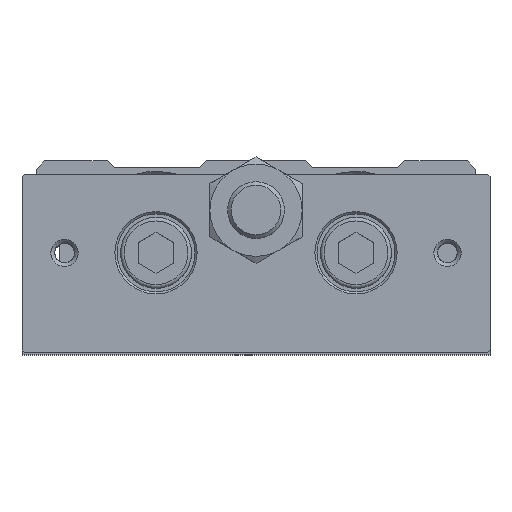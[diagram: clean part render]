
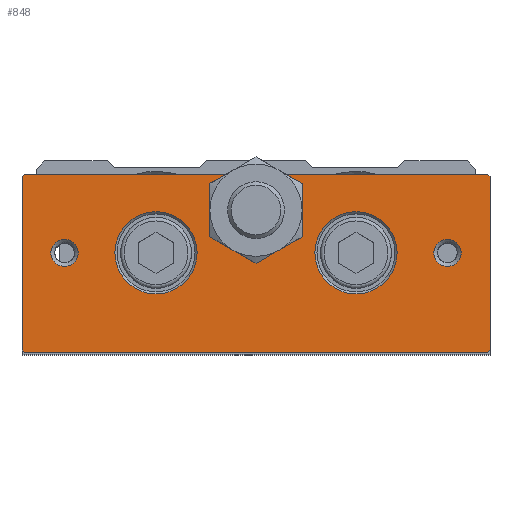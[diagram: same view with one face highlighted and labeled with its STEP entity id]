
A CAD part, top view. The second image highlights one B-rep face of the part: STEP entity #848.
In plain terms, the highlighted planar face has unit normal (0, 0, 1).
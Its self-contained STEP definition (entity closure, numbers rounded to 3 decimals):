
#629=CARTESIAN_POINT('',(-32.7,-14.5,145.0));
#630=VERTEX_POINT('',#629);
#637=CARTESIAN_POINT('',(-33.0,-14.2,145.0));
#638=VERTEX_POINT('',#637);
#639=CARTESIAN_POINT('',(-32.7,-14.5,145.0));
#640=DIRECTION('',(-0.707,0.707,0.0));
#641=VECTOR('',#640,0.424);
#642=LINE('',#639,#641);
#643=EDGE_CURVE('',#630,#638,#642,.T.);
#660=CARTESIAN_POINT('',(-33.0,10.2,145.0));
#661=VERTEX_POINT('',#660);
#662=CARTESIAN_POINT('',(-33.0,10.2,145.0));
#663=DIRECTION('',(0.0,-1.0,0.0));
#664=VECTOR('',#663,24.4);
#665=LINE('',#662,#664);
#666=EDGE_CURVE('',#661,#638,#665,.T.);
#696=CARTESIAN_POINT('',(0.0,-14.5,145.0));
#697=DIRECTION('',(0.0,0.0,1.0));
#698=DIRECTION('',(1.0,0.0,0.0));
#699=AXIS2_PLACEMENT_3D('',#696,#697,#698);
#700=PLANE('',#699);
#701=ORIENTED_EDGE('',*,*,#643,.F.);
#702=CARTESIAN_POINT('',(32.7,-14.5,145.0));
#703=VERTEX_POINT('',#702);
#704=CARTESIAN_POINT('',(-32.7,-14.5,145.0));
#705=DIRECTION('',(1.0,0.0,0.0));
#706=VECTOR('',#705,65.4);
#707=LINE('',#704,#706);
#708=EDGE_CURVE('',#630,#703,#707,.T.);
#709=ORIENTED_EDGE('',*,*,#708,.T.);
#710=CARTESIAN_POINT('',(33.0,-14.2,145.0));
#711=VERTEX_POINT('',#710);
#712=CARTESIAN_POINT('',(33.0,-14.2,145.0));
#713=DIRECTION('',(-0.707,-0.707,0.0));
#714=VECTOR('',#713,0.424);
#715=LINE('',#712,#714);
#716=EDGE_CURVE('',#711,#703,#715,.T.);
#717=ORIENTED_EDGE('',*,*,#716,.F.);
#718=CARTESIAN_POINT('',(33.0,10.2,145.0));
#719=VERTEX_POINT('',#718);
#720=CARTESIAN_POINT('',(33.0,-14.2,145.0));
#721=DIRECTION('',(0.0,1.0,0.0));
#722=VECTOR('',#721,24.4);
#723=LINE('',#720,#722);
#724=EDGE_CURVE('',#711,#719,#723,.T.);
#725=ORIENTED_EDGE('',*,*,#724,.T.);
#726=CARTESIAN_POINT('',(32.7,10.5,145.0));
#727=VERTEX_POINT('',#726);
#728=CARTESIAN_POINT('',(32.7,10.5,145.0));
#729=DIRECTION('',(0.707,-0.707,0.0));
#730=VECTOR('',#729,0.424);
#731=LINE('',#728,#730);
#732=EDGE_CURVE('',#727,#719,#731,.T.);
#733=ORIENTED_EDGE('',*,*,#732,.F.);
#734=CARTESIAN_POINT('',(4.153,10.5,145.0));
#735=VERTEX_POINT('',#734);
#736=CARTESIAN_POINT('',(32.7,10.5,145.0));
#737=DIRECTION('',(-1.0,0.0,0.0));
#738=VECTOR('',#737,28.547);
#739=LINE('',#736,#738);
#740=EDGE_CURVE('',#727,#735,#739,.T.);
#741=ORIENTED_EDGE('',*,*,#740,.T.);
#742=CARTESIAN_POINT('',(6.5,5.5,145.0));
#743=VERTEX_POINT('',#742);
#744=CARTESIAN_POINT('',(0.0,5.5,145.0));
#745=DIRECTION('',(0.0,0.0,1.0));
#746=DIRECTION('',(0.0,1.0,0.0));
#747=AXIS2_PLACEMENT_3D('',#744,#745,#746);
#748=CIRCLE('',#747,6.5);
#749=EDGE_CURVE('',#743,#735,#748,.T.);
#750=ORIENTED_EDGE('',*,*,#749,.F.);
#751=CARTESIAN_POINT('',(3.25,-0.129,145.0));
#752=VERTEX_POINT('',#751);
#753=CARTESIAN_POINT('',(0.0,5.5,145.0));
#754=DIRECTION('',(0.0,0.0,1.0));
#755=DIRECTION('',(0.0,1.0,0.0));
#756=AXIS2_PLACEMENT_3D('',#753,#754,#755);
#757=CIRCLE('',#756,6.5);
#758=EDGE_CURVE('',#752,#743,#757,.T.);
#759=ORIENTED_EDGE('',*,*,#758,.F.);
#760=CARTESIAN_POINT('',(-3.25,-0.129,145.0));
#761=VERTEX_POINT('',#760);
#762=CARTESIAN_POINT('',(0.0,5.5,145.0));
#763=DIRECTION('',(0.0,0.0,1.0));
#764=DIRECTION('',(0.0,1.0,0.0));
#765=AXIS2_PLACEMENT_3D('',#762,#763,#764);
#766=CIRCLE('',#765,6.5);
#767=EDGE_CURVE('',#761,#752,#766,.T.);
#768=ORIENTED_EDGE('',*,*,#767,.F.);
#769=CARTESIAN_POINT('',(-6.5,5.5,145.0));
#770=VERTEX_POINT('',#769);
#771=CARTESIAN_POINT('',(0.0,5.5,145.0));
#772=DIRECTION('',(0.0,0.0,1.0));
#773=DIRECTION('',(0.0,1.0,0.0));
#774=AXIS2_PLACEMENT_3D('',#771,#772,#773);
#775=CIRCLE('',#774,6.5);
#776=EDGE_CURVE('',#770,#761,#775,.T.);
#777=ORIENTED_EDGE('',*,*,#776,.F.);
#778=CARTESIAN_POINT('',(-4.153,10.5,145.0));
#779=VERTEX_POINT('',#778);
#780=CARTESIAN_POINT('',(0.0,5.5,145.0));
#781=DIRECTION('',(0.0,0.0,1.0));
#782=DIRECTION('',(0.0,1.0,0.0));
#783=AXIS2_PLACEMENT_3D('',#780,#781,#782);
#784=CIRCLE('',#783,6.5);
#785=EDGE_CURVE('',#779,#770,#784,.T.);
#786=ORIENTED_EDGE('',*,*,#785,.F.);
#787=CARTESIAN_POINT('',(-32.7,10.5,145.0));
#788=VERTEX_POINT('',#787);
#789=CARTESIAN_POINT('',(-4.153,10.5,145.0));
#790=DIRECTION('',(-1.0,0.0,0.0));
#791=VECTOR('',#790,28.547);
#792=LINE('',#789,#791);
#793=EDGE_CURVE('',#779,#788,#792,.T.);
#794=ORIENTED_EDGE('',*,*,#793,.T.);
#795=CARTESIAN_POINT('',(-33.0,10.2,145.0));
#796=DIRECTION('',(0.707,0.707,0.0));
#797=VECTOR('',#796,0.424);
#798=LINE('',#795,#797);
#799=EDGE_CURVE('',#661,#788,#798,.T.);
#800=ORIENTED_EDGE('',*,*,#799,.F.);
#801=ORIENTED_EDGE('',*,*,#666,.T.);
#802=EDGE_LOOP('',(#701,#709,#717,#725,#733,#741,#750,#759,#768,#777,#786,#794,#800,#801));
#803=FACE_OUTER_BOUND('',#802,.T.);
#804=CARTESIAN_POINT('',(19.9,-0.5,145.0));
#805=VERTEX_POINT('',#804);
#806=CARTESIAN_POINT('',(14.1,-0.5,145.0));
#807=DIRECTION('',(0.0,0.0,1.0));
#808=DIRECTION('',(-1.0,0.0,0.0));
#809=AXIS2_PLACEMENT_3D('',#806,#807,#808);
#810=CIRCLE('',#809,5.8);
#811=EDGE_CURVE('',#805,#805,#810,.T.);
#812=ORIENTED_EDGE('',*,*,#811,.F.);
#813=EDGE_LOOP('',(#812));
#814=FACE_BOUND('',#813,.T.);
#815=CARTESIAN_POINT('',(28.925,-0.5,145.0));
#816=VERTEX_POINT('',#815);
#817=CARTESIAN_POINT('',(27.,-0.5,145.0));
#818=DIRECTION('',(0.0,0.0,1.0));
#819=DIRECTION('',(-1.0,0.0,0.0));
#820=AXIS2_PLACEMENT_3D('',#817,#818,#819);
#821=CIRCLE('',#820,1.925);
#822=EDGE_CURVE('',#816,#816,#821,.T.);
#823=ORIENTED_EDGE('',*,*,#822,.F.);
#824=EDGE_LOOP('',(#823));
#825=FACE_BOUND('',#824,.T.);
#826=CARTESIAN_POINT('',(-25.075,-0.5,145.0));
#827=VERTEX_POINT('',#826);
#828=CARTESIAN_POINT('',(-27.0,-0.5,145.0));
#829=DIRECTION('',(0.0,0.0,1.0));
#830=DIRECTION('',(-1.0,0.0,0.0));
#831=AXIS2_PLACEMENT_3D('',#828,#829,#830);
#832=CIRCLE('',#831,1.925);
#833=EDGE_CURVE('',#827,#827,#832,.T.);
#834=ORIENTED_EDGE('',*,*,#833,.F.);
#835=EDGE_LOOP('',(#834));
#836=FACE_BOUND('',#835,.T.);
#837=CARTESIAN_POINT('',(-8.3,-0.5,145.0));
#838=VERTEX_POINT('',#837);
#839=CARTESIAN_POINT('',(-14.1,-0.5,145.0));
#840=DIRECTION('',(0.0,0.0,1.0));
#841=DIRECTION('',(-1.0,0.0,0.0));
#842=AXIS2_PLACEMENT_3D('',#839,#840,#841);
#843=CIRCLE('',#842,5.8);
#844=EDGE_CURVE('',#838,#838,#843,.T.);
#845=ORIENTED_EDGE('',*,*,#844,.F.);
#846=EDGE_LOOP('',(#845));
#847=FACE_BOUND('',#846,.T.);
#848=ADVANCED_FACE('',(#803,#814,#825,#836,#847),#700,.T.);
